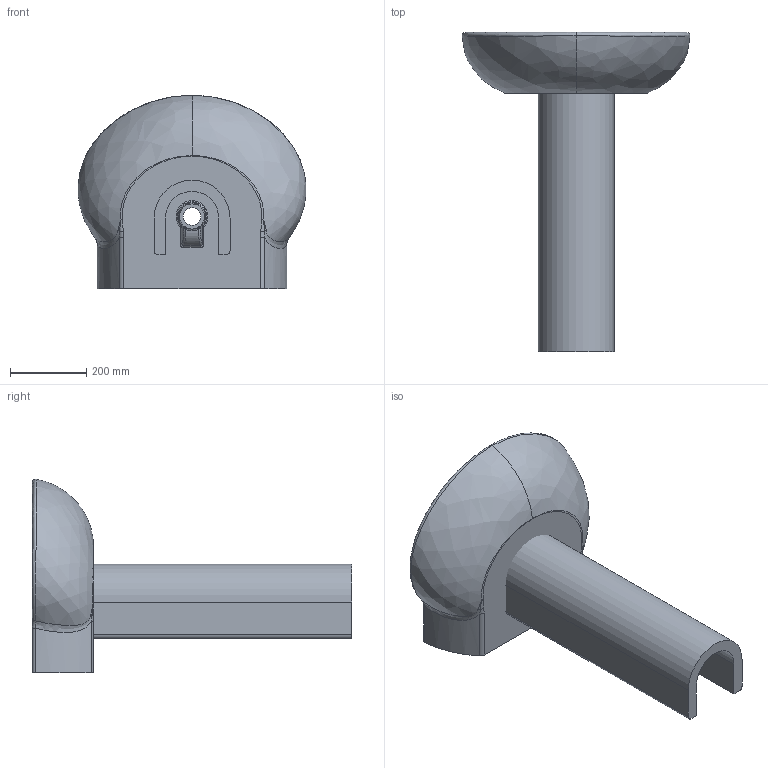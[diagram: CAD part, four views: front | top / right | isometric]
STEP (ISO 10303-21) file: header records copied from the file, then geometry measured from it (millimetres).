
FILE_DESCRIPTION (( 'STEP AP203' ), '1' );
FILE_NAME ('FALP06051T0M_FACLT0000000.STEP', '2022-11-17T15:58:54', ( '' ), ( '' ), 'SwSTEP 2.0', 'SolidWorks 2021', '' );
FILE_SCHEMA (( 'CONFIG_CONTROL_DESIGN' ));
Length unit declared in the file: millimetre
Products named in the file (3): FALP06051T0M; FACLT0000000; FALP06051T0M_FACLT0000000
Assembly tree (2 placements, depth 2):
  FALP06051T0M_FACLT0000000
    FALP06051T0M
    FACLT0000000
Bounding box: 599.61 x 840 x 508.87 mm (x, y, z)
Volume: 31896885 mm3; surface area: 1496718.5 mm2
Topology: 2 solids, 2 shells, 84 faces, 191 edges, 115 vertices
Faces by surface type: bspline 44, cylinder 19, plane 18, cone 3
Full cylindrical faces by diameter (mm): 20 x3, 35 x1, 46 x1
Entity records: 9701 total; most frequent: CARTESIAN_POINT 7848, ORIENTED_EDGE 362, DIRECTION 254, EDGE_CURVE 181, VERTEX_POINT 113, AXIS2_PLACEMENT_3D 108, EDGE_LOOP 98, FACE_OUTER_BOUND 90
